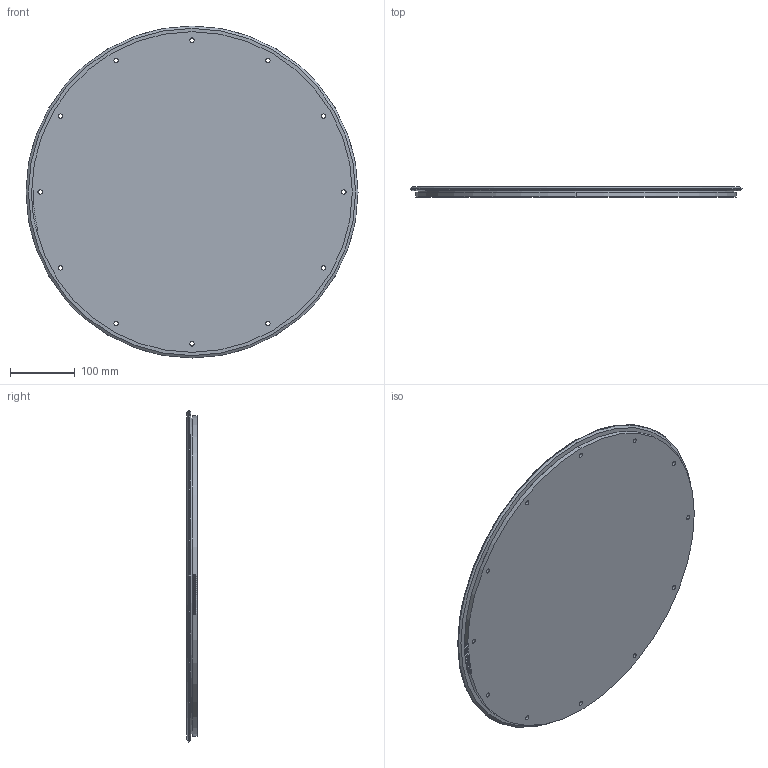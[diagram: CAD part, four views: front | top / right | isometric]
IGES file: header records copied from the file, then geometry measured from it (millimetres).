
Start section: 3D InterOp IGES (v. 2020 1.0.1), Spatial Corp. Copyright (c) 1999-2017.
Global section: file name: rd44_468_p_l.igs; native system: Spatial Corp.; preprocessor: 3D InterOp ACIS/IGES; author: TraceParts; organization: TraceParts S.A.; date: 20220624.041927; units: millimetre
Bounding box: 511.61 x 15.5 x 511.61 mm (x, y, z)
Surface area: 455751.4 mm2 (no closed solid volume)
Topology: 0 solids, 0 shells, 186 faces, 994 edges, 994 vertices
Faces by surface type: extrusion 119, revolution 67
